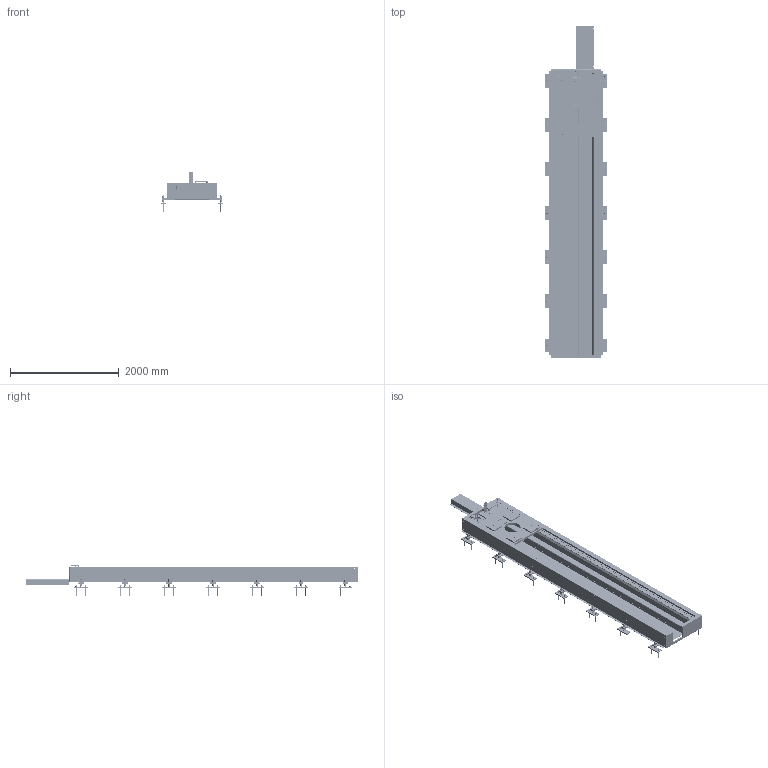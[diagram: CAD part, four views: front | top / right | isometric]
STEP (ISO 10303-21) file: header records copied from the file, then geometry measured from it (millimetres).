
FILE_DESCRIPTION (( 'STEP AP203' ), '1' );
FILE_NAME ('梓袧2000kg迍蟈囀离唳.STEP', '2021-10-14T05:43:19', ( '' ), ( '' ), 'SwSTEP 2.0', 'SolidWorks 2018', '' );
FILE_SCHEMA (( 'CONFIG_CONTROL_DESIGN' ));
Length unit declared in the file: millimetre
Products named in the file (46): LM2005-03-0007; Schweissnaht^RSAG RAIL Assembly Levelling Foot_1; ATLANTA Filzritzel 65-91-418; LM2008-01-0010; U-Scheibe_M10; RSAG RAIL Assembly Levelling Foot_1; RSAG RAIL Threaded Bar_1; LM2008-01-0013; Zylinderschraube_M10x30; Mutter_M8; LM2008-01-0008; LM2008-01-0012; LM2008-01-0006; Stöber Schrumpfscheibe 80_86_062; 儂迮癹弇郪璃; LM2008-01-0007; LM2008-01-0003; LM2008-01-0022; LM2008-01-0032; RSAG RAIL Adhesive Anchor M16x200_1; LM2008-01-0019; U-Scheibe_M20 gross_1; 梓袧2000kg迍蟈囀离唳; LM2006-02-0003; LM2008-01-0001_默认<按加工>; LM2008-01-0024; LM2008-01-0005; LM2008-01-0002_默认<按加工>; LM2005-03-0035; LM2008-01-0023; LM2008-01-0018; LM2008-01-0017; LM2008-01-0014; LM2008-01-0009; Mutter_M20_1; LM2008-01-0011; 萇儂郪璃; LM2008-01-0016; LM2008-01-0020; LM2008-01-0015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
Assembly tree (97 placements, depth 3):
  梓袧2000kg迍蟈囀离唳
    LM2008-01-0001_默认<按加工>
    LM2008-01-0002_默认<按加工>
    LM2008-01-0003
    LM2008-01-0004
    萇儂郪璃
      ATLANTA Ritzel Modul 4 schräg 24453210
      ATLANTA Filzritzel 65-91-418
      Stöber Schrumpfscheibe 80_86_062
      Sechskantschraube_M8x65
      Mutter_M8  x2
      Zylinderschraube_M16x35
      Zylinderschraube_M10x30  x4
      U-Scheibe_M10  x4
      LM2008-01-0005
      LM2008-01-0006
      LM2008-01-0007
      LM2008-01-0032
    LM2008-01-0008  x2
    LM2008-01-0009
    LM2008-01-0010
    LM2008-01-0011
    LM2008-01-0012  x2
    LM2008-01-0013
    LM2008-01-0014
    LM2008-01-0015  x2
    LM2008-01-0016
    LM2008-01-0017  x2
    LM2008-01-0018
    LM2008-01-0019
    LM2008-01-0022  x4
    儂迮癹弇郪璃  x2
      LM2008-01-0023
      LM2008-01-0024
      Maedler Strukturdämpfer 69103400
    RSAG RAIL Assembly Levelling Foot_1  x14
      RSAG RAIL Levelling Foot Plate_1
      RSAG RAIL Threaded Bar_1
      U-Scheibe_M20 gross_1
      Mutter_M20_1
      RSAG RAIL Adhesive Anchor M16x200_1
      Schweissnaht^RSAG RAIL Assembly Levelling Foot_1
    LM2008-01-0020  x6
    LM2005-03-0007
    LM2005-03-0035  x10
    LM2006-02-0003  x4
Bounding box: 1160 x 6118.78 x 745 mm (x, y, z)
Volume: 173072738.3 mm3; surface area: 42800517.1 mm2
Topology: 266 solids, 266 shells, 6306 faces, 16053 edges, 10282 vertices
Faces by surface type: plane 2774, cylinder 2668, cone 822, torus 32, bspline 10
Entity records: 121908 total; most frequent: CARTESIAN_POINT 24673, DIRECTION 19229, ORIENTED_EDGE 18760, EDGE_CURVE 9380, AXIS2_PLACEMENT_3D 7190, VERTEX_POINT 6084, VECTOR 4849, LINE 4849
